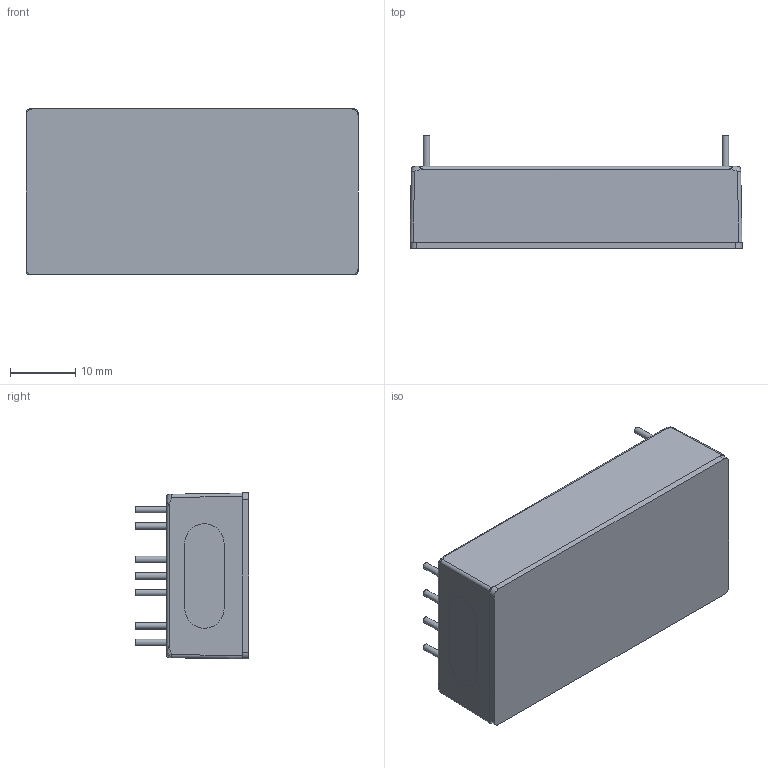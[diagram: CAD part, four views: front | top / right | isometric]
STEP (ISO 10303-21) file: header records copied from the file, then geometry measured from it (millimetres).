
FILE_DESCRIPTION (( 'STEP AP203' ), '1' );
FILE_NAME ('ECB40W18-B 2024.12.27.STEP', '2024-12-27T05:45:17', ( '' ), ( '' ), 'SwSTEP 2.0', 'SolidWorks 2020', '' );
FILE_SCHEMA (( 'CONFIG_CONTROL_DESIGN' ));
Length unit declared in the file: millimetre
Products named in the file (1): ECB40W18-B 2024.12.27
Bounding box: 50.8 x 17.4 x 25.4 mm (x, y, z)
Volume: 15992.5 mm3; surface area: 4607.9 mm2
Topology: 1 solids, 1 shells, 493 faces, 1408 edges, 976 vertices
Faces by surface type: plane 305, bspline 154, cylinder 34
Full cylindrical faces by diameter (mm): 1 x7, 1.2 x7
Entity records: 25481 total; most frequent: CARTESIAN_POINT 13770, ORIENTED_EDGE 2788, DIRECTION 1678, EDGE_CURVE 1394, VERTEX_POINT 976, LINE 894, VECTOR 894, EDGE_LOOP 566
